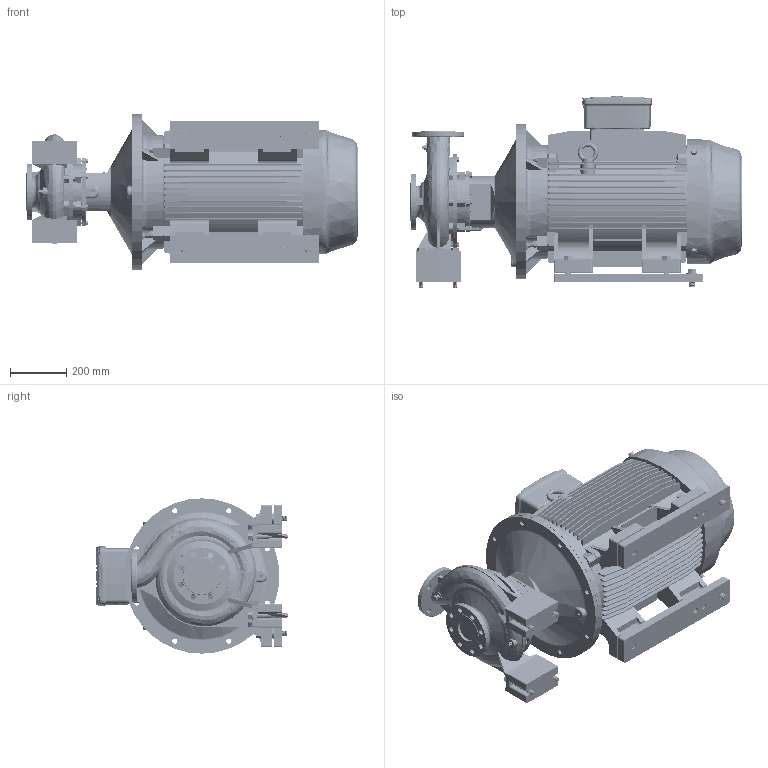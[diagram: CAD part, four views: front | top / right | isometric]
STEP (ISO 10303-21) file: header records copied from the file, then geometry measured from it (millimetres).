
FILE_DESCRIPTION (( 'STEP AP214' ), '1' );
FILE_NAME ('GSD2 65-250_55 & 75_(250SM)_W21.STEP', '2026-07-08T06:30:59', ( '' ), ( '' ), 'SwSTEP 2.0', 'SolidWorks 2024', '' );
FILE_SCHEMA (( 'AUTOMOTIVE_DESIGN' ));
Length unit declared in the file: millimetre
Products named in the file (13): Parametric Nut_M16; 250S_M2P IE3_W21T_B35; Parametric bolt_SFT-A417B; A407B Bolt_407; CGS11-5321_2_3_4_5_CGS11-5322; 100x30 - CGSDA-5291; Parametric Flat Washer_M16; GSD2  65-250_55 & 75_(250SM)_W21; CGS11-5321_2_3_4_5_CGS11-5324; 65-250-250S_M_ﾃﾞﾌｫﾙﾄ; Parametric bolt and washer_SFT-A417B; Parametric Stud Bolt_SFSK-AB383; Parametric Flat Washer_M20
Assembly tree (32 placements, depth 3):
  GSD2  65-250_55 & 75_(250SM)_W21
    65-250-250S_M_ﾃﾞﾌｫﾙﾄ
    250S_M2P IE3_W21T_B35
    CGS11-5321_2_3_4_5_CGS11-5322  x2
    CGS11-5321_2_3_4_5_CGS11-5324  x4
    100x30 - CGSDA-5291  x2
    Parametric Stud Bolt_SFSK-AB383  x4
    Parametric Flat Washer_M16  x4
    Parametric Nut_M16  x4
    A407B Bolt_407  x2
    Parametric Flat Washer_M20  x2
    Parametric bolt and washer_SFT-A417B  x4
      Parametric bolt_SFT-A417B
      Parametric Flat Washer_M20
Bounding box: 1175.5 x 676.5 x 550 mm (x, y, z)
Volume: 141052427.1 mm3; surface area: 5662538.3 mm2
Topology: 36 solids, 41 shells, 4921 faces, 13165 edges, 8448 vertices
Faces by surface type: cylinder 2032, plane 1741, cone 525, bspline 305, torus 302, sphere 16
Entity records: 175884 total; most frequent: CARTESIAN_POINT 84127, ORIENTED_EDGE 20388, DIRECTION 17943, EDGE_CURVE 10194, AXIS2_PLACEMENT_3D 6577, VERTEX_POINT 6508, VECTOR 4789, LINE 4789
